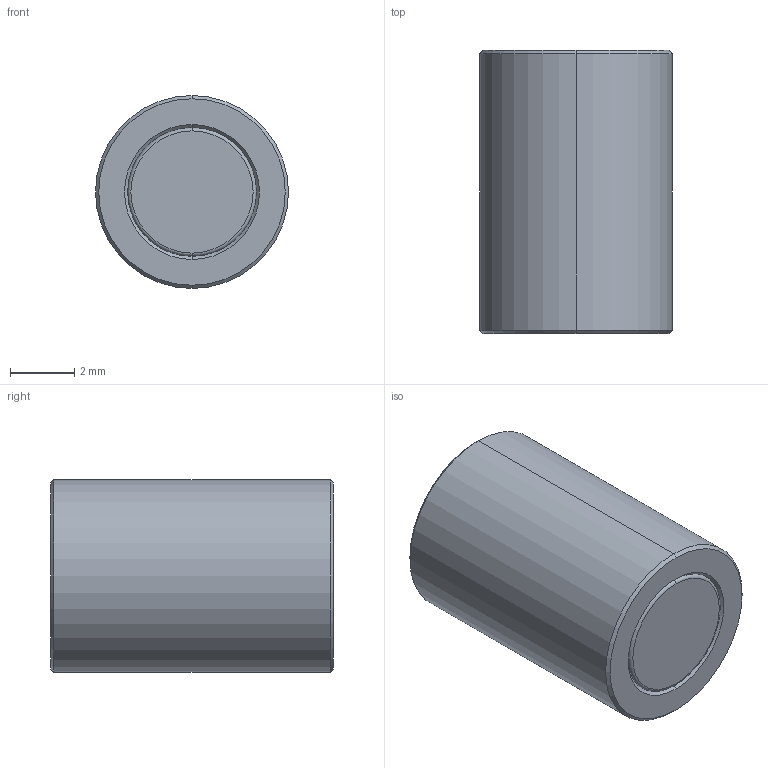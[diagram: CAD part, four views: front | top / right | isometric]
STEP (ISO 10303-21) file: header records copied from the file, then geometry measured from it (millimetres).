
FILE_DESCRIPTION (( 'STEP AP214' ), '1' );
FILE_NAME ('RMA03A3A07-magnetic-actuator.STEP', '2011-09-01T12:31:24', ( '' ), ( '' ), 'SwSTEP 2.0', 'SolidWorks 2010', '' );
FILE_SCHEMA (( 'AUTOMOTIVE_DESIGN' ));
Length unit declared in the file: millimetre
Products named in the file (3): RMA03A3A07-magnetic-actuator; magnet-diam4x4; magnet-holder-MN00260-00
Assembly tree (2 placements, depth 2):
  RMA03A3A07-magnetic-actuator
    magnet-diam4x4
    magnet-holder-MN00260-00
Bounding box: 6 x 8.8 x 6 mm (x, y, z)
Volume: 215 mm3; surface area: 379.2 mm2
Topology: 2 solids, 2 shells, 36 faces, 70 edges, 40 vertices
Faces by surface type: cone 12, cylinder 10, torus 8, plane 6
Entity records: 1036 total; most frequent: DIRECTION 200, CARTESIAN_POINT 151, ORIENTED_EDGE 140, AXIS2_PLACEMENT_3D 89, EDGE_CURVE 70, CIRCLE 48, VERTEX_POINT 40, EDGE_LOOP 40
